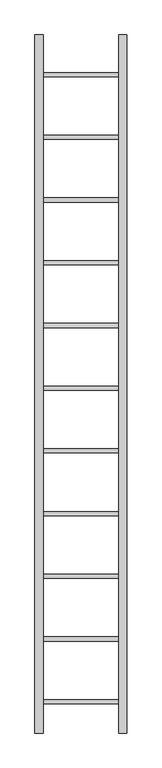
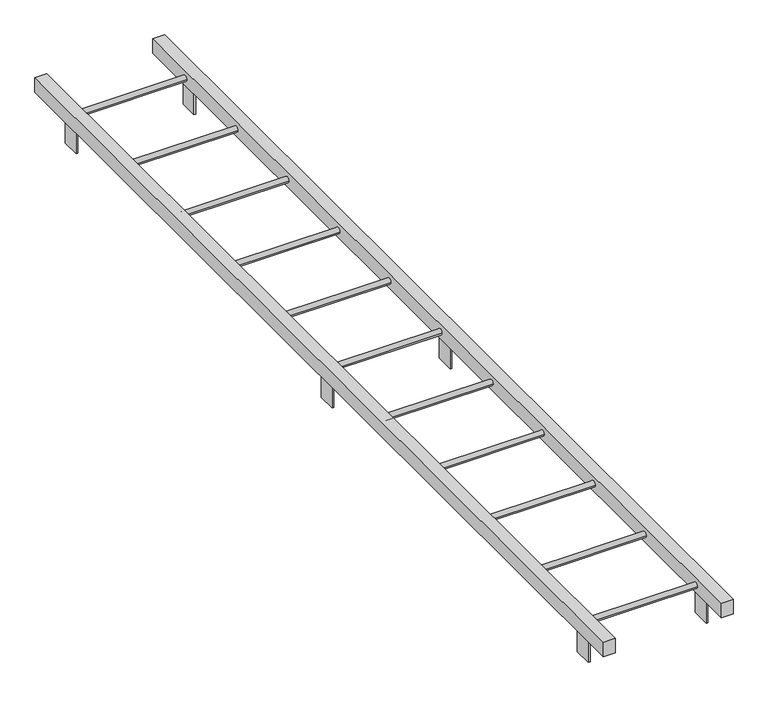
"""IFC4 building model written with IfcOpenShell, lengths in millimetres: furniture geometry, H09 Escalera tanque interior : H09 Escalera tanque interior."""

from ifc_helpers import new_model, si_unit, point, frame, frame_2d, origin, origin_with_axes, place, context, project, spatial, polyline, circle_curve, trimmed, segment, composite_curve, outline, extrude, source, transform, mapped, element, save


def furniture_b6540da9(model_context):
    return source(origin(), model_context, "Body", "SweptSolid", [
        extrude(outline(polyline([(-197.0, -692.7899079), (-197.0, -756.7899079), (-203.0, -756.7899079), (-203.0, -692.7899079), (-197.0, -692.7899079)])), origin_with_axes(), (0.0, 0.0, 1.0), 98.1200688),
        extrude(outline(polyline([(203.0, -692.7899079), (203.0, -756.7899079), (197.0, -756.7899079), (197.0, -692.7899079), (203.0, -692.7899079)])), origin_with_axes(), (0.0, 0.0, 1.0), 98.1200688),
        extrude(outline(polyline([(203.0, 812.2100921), (203.0, 748.2100921), (197.0, 748.2100921), (197.0, 812.2100921), (203.0, 812.2100921)])), origin_with_axes(), (0.0, 0.0, 1.0), 98.1200688),
        extrude(outline(polyline([(-197.0, 812.2100921), (-197.0, 748.2100921), (-203.0, 748.2100921), (-203.0, 812.2100921), (-197.0, 812.2100921)])), origin_with_axes(), (0.0, 0.0, 1.0), 98.1200688),
        extrude(outline(polyline([(203.0, 2317.2100921), (203.0, 2253.2100921), (197.0, 2253.2100921), (197.0, 2317.2100921), (203.0, 2317.2100921)])), origin_with_axes(), (0.0, 0.0, 1.0), 98.1200688),
        extrude(outline(polyline([(-197.0, 2317.2100921), (-197.0, 2253.2100921), (-203.0, 2253.2100921), (-203.0, 2317.2100921), (-197.0, 2317.2100921)])), origin_with_axes(), (0.0, 0.0, 1.0), 98.1200688),
        extrude(outline(composite_curve([segment(trimmed(circle_curve(frame_2d((-724.7899079, 124.0600344)), 10.0), [point((-734.7899079, 124.0600344))], [point((-714.7899079, 124.0600344))], False, "CARTESIAN"), True, "CONTINUOUS"), segment(trimmed(circle_curve(frame_2d((-724.7899079, 124.0600344)), 10.0), [point((-714.7899079, 124.0600344))], [point((-734.7899079, 124.0600344))], False, "CARTESIAN"), True, "CONTINUOUS")], self_intersect=False)), frame((-180.0, 0.0, 0.0), z_axis=(1.0, 0.0, 0.0), x_axis=(0.0, 1.0, 0.0)), (0.0, 0.0, 1.0), 360.0),
        extrude(outline(composite_curve([segment(trimmed(circle_curve(frame_2d((-424.7899079, 124.0600344)), 10.0), [point((-434.7899079, 124.0600344))], [point((-414.7899079, 124.0600344))], False, "CARTESIAN"), True, "CONTINUOUS"), segment(trimmed(circle_curve(frame_2d((-424.7899079, 124.0600344)), 10.0), [point((-414.7899079, 124.0600344))], [point((-434.7899079, 124.0600344))], False, "CARTESIAN"), True, "CONTINUOUS")], self_intersect=False)), frame((-180.0, 0.0, 0.0), z_axis=(1.0, 0.0, 0.0), x_axis=(0.0, 1.0, 0.0)), (0.0, 0.0, 1.0), 360.0),
        extrude(outline(composite_curve([segment(trimmed(circle_curve(frame_2d((-124.7899079, 124.0600344)), 10.0), [point((-134.7899079, 124.0600344))], [point((-114.7899079, 124.0600344))], False, "CARTESIAN"), True, "CONTINUOUS"), segment(trimmed(circle_curve(frame_2d((-124.7899079, 124.0600344)), 10.0), [point((-114.7899079, 124.0600344))], [point((-134.7899079, 124.0600344))], False, "CARTESIAN"), True, "CONTINUOUS")], self_intersect=False)), frame((-180.0, 0.0, 0.0), z_axis=(1.0, 0.0, 0.0), x_axis=(0.0, 1.0, 0.0)), (0.0, 0.0, 1.0), 360.0),
        extrude(outline(composite_curve([segment(trimmed(circle_curve(frame_2d((175.2100921, 124.0600344)), 10.0), [point((165.2100921, 124.0600344))], [point((185.2100921, 124.0600344))], False, "CARTESIAN"), True, "CONTINUOUS"), segment(trimmed(circle_curve(frame_2d((175.2100921, 124.0600344)), 10.0), [point((185.2100921, 124.0600344))], [point((165.2100921, 124.0600344))], False, "CARTESIAN"), True, "CONTINUOUS")], self_intersect=False)), frame((-180.0, 0.0, 0.0), z_axis=(1.0, 0.0, 0.0), x_axis=(0.0, 1.0, 0.0)), (0.0, 0.0, 1.0), 360.0),
        extrude(outline(composite_curve([segment(trimmed(circle_curve(frame_2d((475.2100921, 124.0600344)), 10.0), [point((465.2100921, 124.0600344))], [point((485.2100921, 124.0600344))], False, "CARTESIAN"), True, "CONTINUOUS"), segment(trimmed(circle_curve(frame_2d((475.2100921, 124.0600344)), 10.0), [point((485.2100921, 124.0600344))], [point((465.2100921, 124.0600344))], False, "CARTESIAN"), True, "CONTINUOUS")], self_intersect=False)), frame((-180.0, 0.0, 0.0), z_axis=(1.0, 0.0, 0.0), x_axis=(0.0, 1.0, 0.0)), (0.0, 0.0, 1.0), 360.0),
        extrude(outline(composite_curve([segment(trimmed(circle_curve(frame_2d((775.2100921, 124.0600344)), 10.0), [point((765.2100921, 124.0600344))], [point((785.2100921, 124.0600344))], False, "CARTESIAN"), True, "CONTINUOUS"), segment(trimmed(circle_curve(frame_2d((775.2100921, 124.0600344)), 10.0), [point((785.2100921, 124.0600344))], [point((765.2100921, 124.0600344))], False, "CARTESIAN"), True, "CONTINUOUS")], self_intersect=False)), frame((-180.0, 0.0, 0.0), z_axis=(1.0, 0.0, 0.0), x_axis=(0.0, 1.0, 0.0)), (0.0, 0.0, 1.0), 360.0),
        extrude(outline(composite_curve([segment(trimmed(circle_curve(frame_2d((1075.2100921, 124.0600344)), 10.0), [point((1065.2100921, 124.0600344))], [point((1085.2100921, 124.0600344))], False, "CARTESIAN"), True, "CONTINUOUS"), segment(trimmed(circle_curve(frame_2d((1075.2100921, 124.0600344)), 10.0), [point((1085.2100921, 124.0600344))], [point((1065.2100921, 124.0600344))], False, "CARTESIAN"), True, "CONTINUOUS")], self_intersect=False)), frame((-180.0, 0.0, 0.0), z_axis=(1.0, 0.0, 0.0), x_axis=(0.0, 1.0, 0.0)), (0.0, 0.0, 1.0), 360.0),
        extrude(outline(composite_curve([segment(trimmed(circle_curve(frame_2d((1375.2100921, 124.0600344)), 10.0), [point((1365.2100921, 124.0600344))], [point((1385.2100921, 124.0600344))], False, "CARTESIAN"), True, "CONTINUOUS"), segment(trimmed(circle_curve(frame_2d((1375.2100921, 124.0600344)), 10.0), [point((1385.2100921, 124.0600344))], [point((1365.2100921, 124.0600344))], False, "CARTESIAN"), True, "CONTINUOUS")], self_intersect=False)), frame((-180.0, 0.0, 0.0), z_axis=(1.0, 0.0, 0.0), x_axis=(0.0, 1.0, 0.0)), (0.0, 0.0, 1.0), 360.0),
        extrude(outline(composite_curve([segment(trimmed(circle_curve(frame_2d((1675.2100921, 124.0600344)), 10.0), [point((1665.2100921, 124.0600344))], [point((1685.2100921, 124.0600344))], False, "CARTESIAN"), True, "CONTINUOUS"), segment(trimmed(circle_curve(frame_2d((1675.2100921, 124.0600344)), 10.0), [point((1685.2100921, 124.0600344))], [point((1665.2100921, 124.0600344))], False, "CARTESIAN"), True, "CONTINUOUS")], self_intersect=False)), frame((-180.0, 0.0, 0.0), z_axis=(1.0, 0.0, 0.0), x_axis=(0.0, 1.0, 0.0)), (0.0, 0.0, 1.0), 360.0),
        extrude(outline(composite_curve([segment(trimmed(circle_curve(frame_2d((1975.2100921, 124.0600344)), 10.0), [point((1965.2100921, 124.0600344))], [point((1985.2100921, 124.0600344))], False, "CARTESIAN"), True, "CONTINUOUS"), segment(trimmed(circle_curve(frame_2d((1975.2100921, 124.0600344)), 10.0), [point((1985.2100921, 124.0600344))], [point((1965.2100921, 124.0600344))], False, "CARTESIAN"), True, "CONTINUOUS")], self_intersect=False)), frame((-180.0, 0.0, 0.0), z_axis=(1.0, 0.0, 0.0), x_axis=(0.0, 1.0, 0.0)), (0.0, 0.0, 1.0), 360.0),
        extrude(outline(composite_curve([segment(trimmed(circle_curve(frame_2d((2275.2100921, 124.0600344)), 10.0), [point((2265.2100921, 124.0600344))], [point((2285.2100921, 124.0600344))], False, "CARTESIAN"), True, "CONTINUOUS"), segment(trimmed(circle_curve(frame_2d((2275.2100921, 124.0600344)), 10.0), [point((2285.2100921, 124.0600344))], [point((2265.2100921, 124.0600344))], False, "CARTESIAN"), True, "CONTINUOUS")], self_intersect=False)), frame((-180.0, 0.0, 0.0), z_axis=(1.0, 0.0, 0.0), x_axis=(0.0, 1.0, 0.0)), (0.0, 0.0, 1.0), 360.0),
        extrude(outline(polyline([(-180.0, -874.7899079), (-220.0, -874.7899079), (-220.0, 2465.2100921), (-180.0, 2465.2100921), (-180.0, -874.7899079)])), frame((0.0, 0.0, 98.1200688), z_axis=(0.0, 0.0, 1.0), x_axis=(1.0, 0.0, 0.0)), (0.0, 0.0, 1.0), 51.8799312),
        extrude(outline(polyline([(220.0, -874.7899079), (180.0, -874.7899079), (180.0, 2465.2100921), (220.0, 2465.2100921), (220.0, -874.7899079)])), frame((0.0, 0.0, 98.1200688), z_axis=(0.0, 0.0, 1.0), x_axis=(1.0, 0.0, 0.0)), (0.0, 0.0, 1.0), 51.8799312),
    ])


if __name__ == "__main__":
    model = new_model("IFC4")
    model_context = context("Model", 3, world=origin())
    ifc_project = project(units=[si_unit("LENGTHUNIT", "METRE", prefix="MILLI")], contexts=[model_context])
    site = spatial("IfcSite", under=ifc_project)
    building = spatial("IfcBuilding", under=site)
    placement = place(None, origin())
    furniture_shape = furniture_b6540da9(model_context)
    element("IfcFurniture", 1, ObjectType="H09 Escalera tanque interior : H09 Escalera tanque interior", at=placement, inside=building, context=model_context, shape_type="MappedRepresentation", body=[
        mapped(furniture_shape, transform((0.0, 0.0, 0.0), x_axis=(1.0, 0.0, 0.0), y_axis=(0.0, 1.0, 0.0), z_axis=(0.0, 0.0, 1.0))),
    ])
    save(model, "model.ifc")
